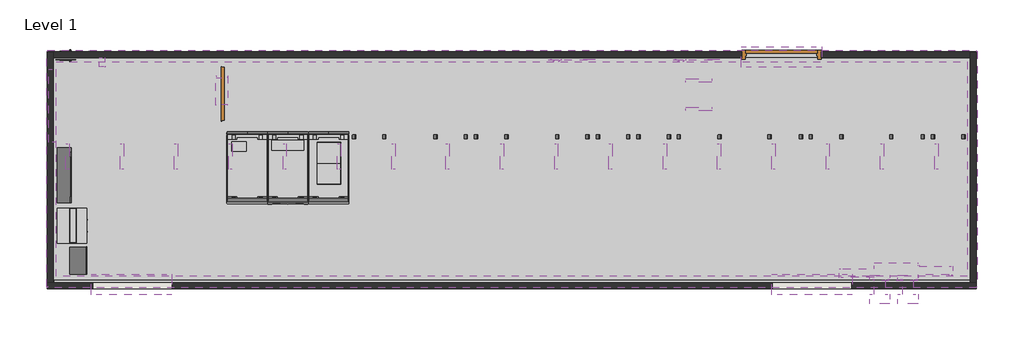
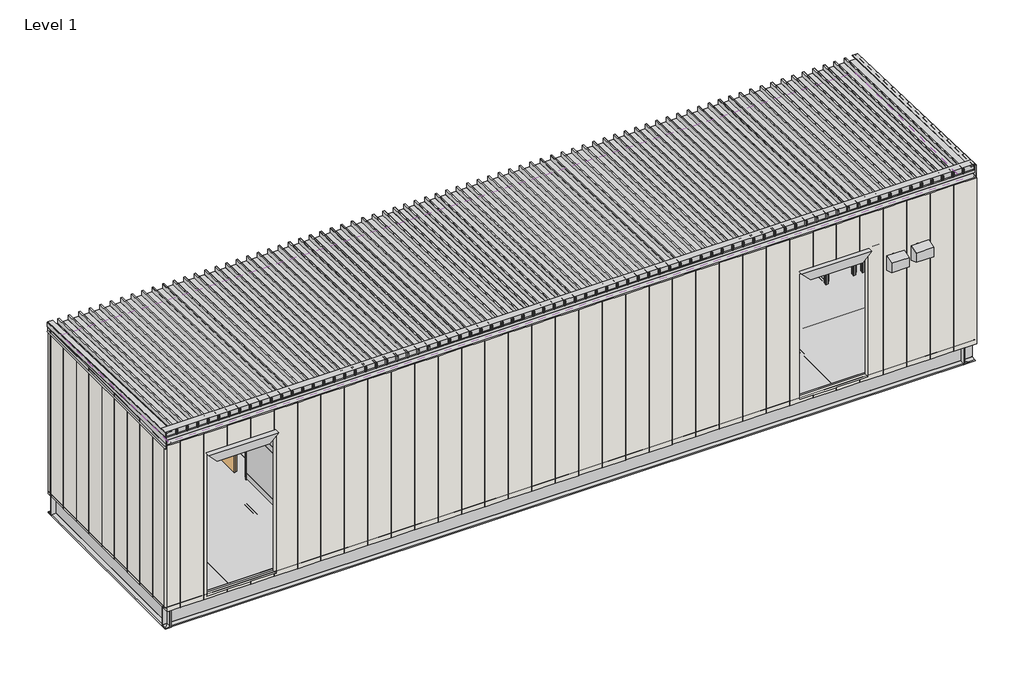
# One storey, incomplete: 41 proxies, 32 beams, 19 cable carrier fittings, 5 walls, 3 doors, 1 covering.
"""IFC4 building model written with IfcOpenShell, lengths in millimetres."""

from ifc_helpers import new_model, si_unit, frame, origin, place, context, project, spatial, polyline, outline, extrude, transform, mapped, element, save
from components import c381x94_16dd5fd5, c381x94_299a31d8, c381x96_93085bd0, c381x96_86510107, c381x96_7eebbe73, foot_stand_and_door_shade_foot_stand_and_door_shade_9e24d134, foot_stand_and_door_shade_foot_stand_and_door_shade_7551d113, foot_stand_and_door_shade_foot_stand_and_door_shade_05bf400a, i_channel_153x157_1de0439f, i_channel_2c100x6_7_d020ab85, i_channel_2c100x6_7_32814a7a, roof_100kw_roof_100kw_d4473de0, roof_100kw_roof_100kw_570b7f92, roof_100kw_roof_100kw_ccd04ebd, electrical_equipment_6561f704, electrical_equipment_92dd933f, electrical_equipment_2ad6ca1a, electrical_equipment_bae1f18c, electrical_equipment_f38b721f, mechanical_equipment_6443fe90, electrical_equipment_d7194751, electrical_equipment_63daee8f, electrical_equipment_b056a7a1, proxy_120v_outlet_120v_outlet_7d29b4f8, acf301em_404c859c, base_cover_base_cover_3083e37a, cp_100_control_panel_1df38591, climate_control_climate_control_6d8de276, i_line_power_distribution_panel_board_enclosure_cbae9e6e, rack_mount_pdu_ap8865_5da5d9cc, type_1_0d3d00d8, hanger_cabletray_hanger_cabletray_1b30f011, door_f1603644, door_5ed18baa, default_3b366235, walls_2_walls_2_6813603a, walls_3_walls_2_133da783, walls_4_walls_2_33bced6a, walls_7_walls_2_60d64259

model = new_model("IFC4")

# Units and contexts
model_context = context("Model", 3, world=origin())
ifc_project = project(units=[si_unit("LENGTHUNIT", "METRE", prefix="MILLI")], contexts=[model_context])

# Site, building, storey
site = spatial("IfcSite", under=ifc_project)
building = spatial("IfcBuilding", under=site)
storey = spatial("IfcBuildingStorey", under=building, Name="Level 1", Elevation=0.0)

# Beams
placement = place(None, origin())
c381x94_shape = c381x94_16dd5fd5(model_context)
element("IfcBeam", 1, ObjectType="M_C-Channel_305x105 : C381x94", at=placement, inside=storey, context=model_context, shape_type="MappedRepresentation", body=[
    mapped(c381x94_shape, transform((14806.9716396, 3824.2548204, 190.5), x_axis=(-1.0, 0.0, 0.0), y_axis=(0.0, -1.0, 0.0), z_axis=(0.0, 0.0, 1.0))),
])
c381x94_2_shape = c381x94_299a31d8(model_context)
element("IfcBeam", 2, ObjectType="M_C-Channel_305x105 : C381x94", at=placement, inside=storey, context=model_context, shape_type="MappedRepresentation", body=[
    mapped(c381x94_2_shape, transform((14806.9716396, 548.7448234, 190.5), x_axis=(-1.0, 0.0, 0.0), y_axis=(0.0, -1.0, 0.0), z_axis=(0.0, 0.0, 1.0))),
])
c381x96_shape = c381x96_93085bd0(model_context)
element("IfcBeam", 3, ObjectType="M_C-Channel_305x105 : C381x96", at=placement, inside=storey, context=model_context, shape_type="MappedRepresentation", body=[
    mapped(c381x96_shape, transform((6084.5986421, 3985.046086, 190.5), x_axis=(0.0, -1.0, 0.0), y_axis=(1.0, 0.0, 0.0), z_axis=(0.0, 0.0, 1.0))),
])
c381x96_2_shape = c381x96_86510107(model_context)
element("IfcBeam", 4, ObjectType="M_C-Channel_305x105 : C381x96", at=placement, inside=storey, context=model_context, shape_type="MappedRepresentation", body=[
    mapped(c381x96_2_shape, transform((19539.9172037, 3985.046086, 190.5), x_axis=(0.0, -1.0, 0.0), y_axis=(1.0, 0.0, 0.0), z_axis=(0.0, 0.0, 1.0))),
])
c381x96_3_shape = c381x96_7eebbe73(model_context)
element("IfcBeam", 5, ObjectType="M_C-Channel_305x105 : C381x96", at=placement, inside=storey, context=model_context, shape_type="MappedRepresentation", body=[
    mapped(c381x96_3_shape, transform((7732.608639, 3985.046086, 190.5), x_axis=(0.0, -1.0, 0.0), y_axis=(1.0, 0.0, 0.0), z_axis=(0.0, 0.0, 1.0))),
])
element("IfcBeam", 6, ObjectType="M_C-Channel_305x105 : C381x96", at=placement, inside=storey, context=model_context, shape_type="MappedRepresentation", body=[
    mapped(c381x96_3_shape, transform((12832.608639, 3985.046086, 190.5), x_axis=(0.0, -1.0, 0.0), y_axis=(1.0, 0.0, 0.0), z_axis=(0.0, 0.0, 1.0))),
])
element("IfcBeam", 7, ObjectType="M_C-Channel_305x105 : C381x96", at=placement, inside=storey, context=model_context, shape_type="MappedRepresentation", body=[
    mapped(c381x96_3_shape, transform((17932.608639, 3985.046086, 190.5), x_axis=(0.0, -1.0, 0.0), y_axis=(1.0, 0.0, 0.0), z_axis=(0.0, 0.0, 1.0))),
])
foot_stand_and_door_shade_foot_stand_and_door_shade_shape = foot_stand_and_door_shade_foot_stand_and_door_shade_9e24d134(model_context)
element("IfcBeam", 8, ObjectType="Foot Stand and Door shade : Foot Stand and Door shade", at=placement, inside=storey, context=model_context, shape_type="MappedRepresentation", body=[
    mapped(foot_stand_and_door_shade_foot_stand_and_door_shade_shape, transform((6594.6384743, 77.5172457, 0.0), x_axis=(1.0, 0.0, 0.0), y_axis=(0.0, 1.0, 0.0), z_axis=(0.0, 0.0, 1.0))),
])
foot_stand_and_door_shade_foot_stand_and_door_shade_2_shape = foot_stand_and_door_shade_foot_stand_and_door_shade_7551d113(model_context)
element("IfcBeam", 9, ObjectType="Foot Stand and Door shade : Foot Stand and Door shade", at=placement, inside=storey, context=model_context, shape_type="MappedRepresentation", body=[
    mapped(foot_stand_and_door_shade_foot_stand_and_door_shade_2_shape, transform((16642.4999477, 77.5172457, 0.0), x_axis=(1.0, 0.0, 0.0), y_axis=(0.0, 1.0, 0.0), z_axis=(0.0, 0.0, 1.0))),
])
foot_stand_and_door_shade_foot_stand_and_door_shade_3_shape = foot_stand_and_door_shade_foot_stand_and_door_shade_05bf400a(model_context)
element("IfcBeam", 10, ObjectType="Foot Stand and Door shade : Foot Stand and Door shade", at=placement, inside=storey, context=model_context, shape_type="MappedRepresentation", body=[
    mapped(foot_stand_and_door_shade_foot_stand_and_door_shade_3_shape, transform((16189.0339477, 4238.9110044, 0.0), x_axis=(1.0, 0.0, 0.0), y_axis=(0.0, 1.0, 0.0), z_axis=(0.0, 0.0, 1.0))),
])
i_channel_153x157_shape = i_channel_153x157_1de0439f(model_context)
element("IfcBeam", 11, ObjectType="I Channel : 153x157", at=placement, inside=storey, context=model_context, shape_type="MappedRepresentation", body=[
    mapped(i_channel_153x157_shape, transform((9239.0399071, 2184.3638219, 202.5), x_axis=(1.0, 0.0, 0.0), y_axis=(0.0, 1.0, 0.0), z_axis=(0.0, 0.0, 1.0))),
])
i_channel_2c100x6_7_shape = i_channel_2c100x6_7_d020ab85(model_context)
element("IfcBeam", 12, ObjectType="I Channel : 2C100X6.7", at=placement, inside=storey, context=model_context, shape_type="MappedRepresentation", body=[
    mapped(i_channel_2c100x6_7_shape, transform((8362.9196405, 3129.3607292, 332.5), x_axis=(0.0, -1.0, 0.0), y_axis=(1.0, 0.0, 0.0), z_axis=(0.0, 0.0, 1.0))),
])
element("IfcBeam", 13, ObjectType="I Channel : 2C100X6.7", at=placement, inside=storey, context=model_context, shape_type="MappedRepresentation", body=[
    mapped(i_channel_2c100x6_7_shape, transform((6549.7176405, 3129.3607292, 332.5), x_axis=(0.0, -1.0, 0.0), y_axis=(1.0, 0.0, 0.0), z_axis=(0.0, 0.0, 1.0))),
])
i_channel_2c100x6_7_2_shape = i_channel_2c100x6_7_32814a7a(model_context)
element("IfcBeam", 14, ObjectType="I Channel : 2C100X6.7", at=placement, inside=storey, context=model_context, shape_type="MappedRepresentation", body=[
    mapped(i_channel_2c100x6_7_2_shape, transform((19162.9196405, 3123.0107292, 332.5), x_axis=(0.0, -1.0, 0.0), y_axis=(1.0, 0.0, 0.0), z_axis=(0.0, 0.0, 1.0))),
])
element("IfcBeam", 15, ObjectType="I Channel : 2C100X6.7", at=placement, inside=storey, context=model_context, shape_type="MappedRepresentation", body=[
    mapped(i_channel_2c100x6_7_2_shape, transform((18562.9196405, 3123.0107292, 332.5), x_axis=(0.0, -1.0, 0.0), y_axis=(1.0, 0.0, 0.0), z_axis=(0.0, 0.0, 1.0))),
])
element("IfcBeam", 16, ObjectType="I Channel : 2C100X6.7", at=placement, inside=storey, context=model_context, shape_type="MappedRepresentation", body=[
    mapped(i_channel_2c100x6_7_2_shape, transform((17362.9196405, 3123.0107292, 332.5), x_axis=(0.0, -1.0, 0.0), y_axis=(1.0, 0.0, 0.0), z_axis=(0.0, 0.0, 1.0))),
])
element("IfcBeam", 17, ObjectType="I Channel : 2C100X6.7", at=placement, inside=storey, context=model_context, shape_type="MappedRepresentation", body=[
    mapped(i_channel_2c100x6_7_2_shape, transform((16762.9196405, 3123.0107292, 332.5), x_axis=(0.0, -1.0, 0.0), y_axis=(1.0, 0.0, 0.0), z_axis=(0.0, 0.0, 1.0))),
])
element("IfcBeam", 18, ObjectType="I Channel : 2C100X6.7", at=placement, inside=storey, context=model_context, shape_type="MappedRepresentation", body=[
    mapped(i_channel_2c100x6_7_2_shape, transform((16162.9196405, 3123.0107292, 332.5), x_axis=(0.0, -1.0, 0.0), y_axis=(1.0, 0.0, 0.0), z_axis=(0.0, 0.0, 1.0))),
])
element("IfcBeam", 19, ObjectType="I Channel : 2C100X6.7", at=placement, inside=storey, context=model_context, shape_type="MappedRepresentation", body=[
    mapped(i_channel_2c100x6_7_2_shape, transform((15562.9196405, 3123.0107292, 332.5), x_axis=(0.0, -1.0, 0.0), y_axis=(1.0, 0.0, 0.0), z_axis=(0.0, 0.0, 1.0))),
])
element("IfcBeam", 20, ObjectType="I Channel : 2C100X6.7", at=placement, inside=storey, context=model_context, shape_type="MappedRepresentation", body=[
    mapped(i_channel_2c100x6_7_2_shape, transform((14962.9196405, 3123.0107292, 332.5), x_axis=(0.0, -1.0, 0.0), y_axis=(1.0, 0.0, 0.0), z_axis=(0.0, 0.0, 1.0))),
])
element("IfcBeam", 21, ObjectType="I Channel : 2C100X6.7", at=placement, inside=storey, context=model_context, shape_type="MappedRepresentation", body=[
    mapped(i_channel_2c100x6_7_2_shape, transform((14362.9196405, 3123.0107292, 332.5), x_axis=(0.0, -1.0, 0.0), y_axis=(1.0, 0.0, 0.0), z_axis=(0.0, 0.0, 1.0))),
])
element("IfcBeam", 22, ObjectType="I Channel : 2C100X6.7", at=placement, inside=storey, context=model_context, shape_type="MappedRepresentation", body=[
    mapped(i_channel_2c100x6_7_2_shape, transform((13762.9196405, 3123.0107292, 332.5), x_axis=(0.0, -1.0, 0.0), y_axis=(1.0, 0.0, 0.0), z_axis=(0.0, 0.0, 1.0))),
])
element("IfcBeam", 23, ObjectType="I Channel : 2C100X6.7", at=placement, inside=storey, context=model_context, shape_type="MappedRepresentation", body=[
    mapped(i_channel_2c100x6_7_2_shape, transform((13162.9196405, 3123.0107292, 332.5), x_axis=(0.0, -1.0, 0.0), y_axis=(1.0, 0.0, 0.0), z_axis=(0.0, 0.0, 1.0))),
])
element("IfcBeam", 24, ObjectType="I Channel : 2C100X6.7", at=placement, inside=storey, context=model_context, shape_type="MappedRepresentation", body=[
    mapped(i_channel_2c100x6_7_2_shape, transform((12562.9196405, 3123.0107292, 332.5), x_axis=(0.0, -1.0, 0.0), y_axis=(1.0, 0.0, 0.0), z_axis=(0.0, 0.0, 1.0))),
])
element("IfcBeam", 25, ObjectType="I Channel : 2C100X6.7", at=placement, inside=storey, context=model_context, shape_type="MappedRepresentation", body=[
    mapped(i_channel_2c100x6_7_2_shape, transform((11962.9196405, 3123.0107292, 332.5), x_axis=(0.0, -1.0, 0.0), y_axis=(1.0, 0.0, 0.0), z_axis=(0.0, 0.0, 1.0))),
])
element("IfcBeam", 26, ObjectType="I Channel : 2C100X6.7", at=placement, inside=storey, context=model_context, shape_type="MappedRepresentation", body=[
    mapped(i_channel_2c100x6_7_2_shape, transform((11362.9196405, 3123.0107292, 332.5), x_axis=(0.0, -1.0, 0.0), y_axis=(1.0, 0.0, 0.0), z_axis=(0.0, 0.0, 1.0))),
])
element("IfcBeam", 27, ObjectType="I Channel : 2C100X6.7", at=placement, inside=storey, context=model_context, shape_type="MappedRepresentation", body=[
    mapped(i_channel_2c100x6_7_2_shape, transform((10762.9196405, 3123.0107292, 332.5), x_axis=(0.0, -1.0, 0.0), y_axis=(1.0, 0.0, 0.0), z_axis=(0.0, 0.0, 1.0))),
])
element("IfcBeam", 28, ObjectType="I Channel : 2C100X6.7", at=placement, inside=storey, context=model_context, shape_type="MappedRepresentation", body=[
    mapped(i_channel_2c100x6_7_2_shape, transform((10162.9196405, 3123.0107292, 332.5), x_axis=(0.0, -1.0, 0.0), y_axis=(1.0, 0.0, 0.0), z_axis=(0.0, 0.0, 1.0))),
])
element("IfcBeam", 29, ObjectType="I Channel : 2C100X6.7", at=placement, inside=storey, context=model_context, shape_type="MappedRepresentation", body=[
    mapped(i_channel_2c100x6_7_2_shape, transform((9562.9196405, 3123.0107292, 332.5), x_axis=(0.0, -1.0, 0.0), y_axis=(1.0, 0.0, 0.0), z_axis=(0.0, 0.0, 1.0))),
])
element("IfcBeam", 30, ObjectType="I Channel : 2C100X6.7", at=placement, inside=storey, context=model_context, shape_type="MappedRepresentation", body=[
    mapped(i_channel_2c100x6_7_2_shape, transform((8962.9196405, 3123.0107292, 332.5), x_axis=(0.0, -1.0, 0.0), y_axis=(1.0, 0.0, 0.0), z_axis=(0.0, 0.0, 1.0))),
])
element("IfcBeam", 31, ObjectType="I Channel : 2C100X6.7", at=placement, inside=storey, context=model_context, shape_type="MappedRepresentation", body=[
    mapped(i_channel_2c100x6_7_2_shape, transform((7149.7176405, 3123.0107292, 332.5), x_axis=(0.0, -1.0, 0.0), y_axis=(1.0, 0.0, 0.0), z_axis=(0.0, 0.0, 1.0))),
])
roof_100kw_roof_100kw_shape = roof_100kw_roof_100kw_d4473de0(model_context)
roof_100kw_roof_100kw_2_shape = roof_100kw_roof_100kw_570b7f92(model_context)
roof_100kw_roof_100kw_3_shape = roof_100kw_roof_100kw_ccd04ebd(model_context)
element("IfcBeam", 32, ObjectType="Roof_100kW : Roof_100kW", at=placement, inside=storey, context=model_context, shape_type="MappedRepresentation", body=[
    mapped(roof_100kw_roof_100kw_shape, transform((12866.921139, 462.8998207, 0.0), x_axis=(1.0, 0.0, 0.0), y_axis=(0.0, 1.0, 0.0), z_axis=(0.0, 0.0, 1.0))),
    mapped(roof_100kw_roof_100kw_2_shape, transform((12866.921139, 462.8998207, 0.0), x_axis=(1.0, 0.0, 0.0), y_axis=(0.0, 1.0, 0.0), z_axis=(0.0, 0.0, 1.0))),
    mapped(roof_100kw_roof_100kw_3_shape, transform((12866.921139, 462.8998207, 0.0), x_axis=(1.0, 0.0, 0.0), y_axis=(0.0, 1.0, 0.0), z_axis=(0.0, 0.0, 1.0))),
])

# Proxies
electrical_equipment_shape = electrical_equipment_6561f704(model_context)
electrical_equipment_2_shape = electrical_equipment_92dd933f(model_context)
electrical_equipment_3_shape = electrical_equipment_2ad6ca1a(model_context)
element("IfcBuildingElementProxy", 33, Name="TRF2 - 480V-208Vor 120V_ Step_down_transformer_BIM_Model : TRF2 - 480V-208Vor 120V_ Step_down_transformer_BIM_Model", ObjectType="TRF2 - 480V-208Vor 120V_ Step_down_transformer_BIM_Model : TRF2 - 480V-208Vor 120V_ Step_down_transformer_BIM_Model", at=placement, inside=storey, context=model_context, shape_type="MappedRepresentation", body=[
    mapped(electrical_equipment_shape, transform((6367.1751166, 1345.1918929, 384.1500006), x_axis=(0.0, 1.0, 0.0), y_axis=(-1.0, 0.0, 0.0), z_axis=(0.0, 0.0, 1.0))),
    mapped(electrical_equipment_2_shape, transform((6367.1751166, 1345.1918929, 384.1500006), x_axis=(0.0, 1.0, 0.0), y_axis=(-1.0, 0.0, 0.0), z_axis=(0.0, 0.0, 1.0))),
    mapped(electrical_equipment_3_shape, transform((6367.1751166, 1345.1918929, 384.1500006), x_axis=(0.0, 1.0, 0.0), y_axis=(-1.0, 0.0, 0.0), z_axis=(0.0, 0.0, 1.0))),
])
electrical_equipment_4_shape = electrical_equipment_bae1f18c(model_context)
element("IfcBuildingElementProxy", 34, Name="Distribution_Socket_Single_rotated : Distribution_Socket_Single_rotated", ObjectType="Distribution_Socket_Single_rotated : Distribution_Socket_Single_rotated", at=placement, inside=storey, context=model_context, shape_type="MappedRepresentation", body=[
    mapped(electrical_equipment_4_shape, transform((6277.2181267, 3854.0638219, 1291.35), x_axis=(1.0, 0.0, 0.0), y_axis=(0.0, 1.0, 0.0), z_axis=(0.0, 0.0, 1.0))),
])
element("IfcBuildingElementProxy", 35, Name="Distribution_Socket_Single_rotated : Distribution_Socket_Single_rotated", ObjectType="Distribution_Socket_Single_rotated : Distribution_Socket_Single_rotated", at=placement, inside=storey, context=model_context, shape_type="MappedRepresentation", body=[
    mapped(electrical_equipment_4_shape, transform((6277.2181267, 3854.0638219, 1041.7225973), x_axis=(1.0, 0.0, 0.0), y_axis=(0.0, 1.0, 0.0), z_axis=(0.0, 0.0, 1.0))),
])
element("IfcBuildingElementProxy", 36, Name="Distribution_Socket_Single_rotated : Distribution_Socket_Single_rotated", ObjectType="Distribution_Socket_Single_rotated : Distribution_Socket_Single_rotated", at=placement, inside=storey, context=model_context, shape_type="MappedRepresentation", body=[
    mapped(electrical_equipment_4_shape, transform((6277.2181267, 3854.0638219, 790.9774027), x_axis=(1.0, 0.0, 0.0), y_axis=(0.0, 1.0, 0.0), z_axis=(0.0, 0.0, 1.0))),
])
element("IfcBuildingElementProxy", 37, Name="Distribution_Socket_Single_rotated : Distribution_Socket_Single_rotated", ObjectType="Distribution_Socket_Single_rotated : Distribution_Socket_Single_rotated", at=placement, inside=storey, context=model_context, shape_type="MappedRepresentation", body=[
    mapped(electrical_equipment_4_shape, transform((6277.2181267, 3854.0638219, 541.35), x_axis=(1.0, 0.0, 0.0), y_axis=(0.0, 1.0, 0.0), z_axis=(0.0, 0.0, 1.0))),
])
electrical_equipment_5_shape = electrical_equipment_f38b721f(model_context)
element("IfcBuildingElementProxy", 38, Name="Distribution_Sockets : Distribution_Sockets", ObjectType="Distribution_Sockets : Distribution_Sockets", at=placement, inside=storey, context=model_context, shape_type="MappedRepresentation", body=[
    mapped(electrical_equipment_5_shape, transform((15588.9924539, 3854.0638219, 2947.9597767), x_axis=(1.0, 0.0, 0.0), y_axis=(0.0, 1.0, 0.0), z_axis=(0.0, 0.0, 1.0))),
])
element("IfcBuildingElementProxy", 39, Name="Distribution_Sockets : Distribution_Sockets", ObjectType="Distribution_Sockets : Distribution_Sockets", at=placement, inside=storey, context=model_context, shape_type="MappedRepresentation", body=[
    mapped(electrical_equipment_5_shape, transform((13748.9924539, 3854.0638219, 2947.9597767), x_axis=(1.0, 0.0, 0.0), y_axis=(0.0, 1.0, 0.0), z_axis=(0.0, 0.0, 1.0))),
])
mechanical_equipment_shape = mechanical_equipment_6443fe90(model_context)
element("IfcBuildingElementProxy", 40, Name="Energy_Recovery_Ventilator_ERVH100SE : ERVH100SE", ObjectType="Energy_Recovery_Ventilator_ERVH100SE : ERVH100SE", at=placement, inside=storey, context=model_context, shape_type="MappedRepresentation", body=[
    mapped(mechanical_equipment_shape, transform((18535.0040748, 800.9566736, 2303.0984805), x_axis=(1.0, 0.0, 0.0), y_axis=(0.0, 1.0, 0.0), z_axis=(0.0, 0.0, 1.0))),
])
electrical_equipment_6_shape = electrical_equipment_d7194751(model_context)
element("IfcBuildingElementProxy", 41, Name="Symmetra_PX_Battery_96_100_160kW_Schneider_Electric_BIM_Model : SYCFXR9-9 - Symmetra PX Battery frame with 9 Battery Modules", ObjectType="Symmetra_PX_Battery_96_100_160kW_Schneider_Electric_BIM_Model : SYCFXR9-9 - Symmetra PX Battery frame with 9 Battery Modules", at=placement, inside=storey, context=model_context, shape_type="MappedRepresentation", body=[
    mapped(electrical_equipment_6_shape, transform((8956.9353251, 2197.1545079, 387.0), x_axis=(1.0, 0.0, 0.0), y_axis=(0.0, 1.0, 0.0), z_axis=(0.0, 0.0, 1.0))),
])
electrical_equipment_7_shape = electrical_equipment_63daee8f(model_context)
element("IfcBuildingElementProxy", 42, Name="Modular_PDU_100kW_600_480_208V_MBP_w_XFMR_Schneider_Electric_BIM_Model : PDPM100G6F-M 100kVA Modular Power Distribution Unit, Isolation Transformer, 480-208V, 72 Pole, MBP, 1 Subfeed", ObjectType="Modular_PDU_100kW_600_480_208V_MBP_w_XFMR_Schneider_Electric_BIM_Model : PDPM100G6F-M 100kVA Modular Power Distribution Unit, Isolation Transformer, 480-208V, 72 Pole, MBP, 1 Subfeed", at=placement, inside=storey, context=model_context, shape_type="MappedRepresentation", body=[
    mapped(electrical_equipment_7_shape, transform((10156.9353251, 2197.1545079, 387.0), x_axis=(1.0, 0.0, 0.0), y_axis=(0.0, 1.0, 0.0), z_axis=(0.0, 0.0, 1.0))),
])
electrical_equipment_8_shape = electrical_equipment_b056a7a1(model_context)
element("IfcBuildingElementProxy", 43, Name="UPS_Symmetra_PX_100_Schneider_Electric_100kVA_BIM_Model : SY100K100F", ObjectType="UPS_Symmetra_PX_100_Schneider_Electric_100kVA_BIM_Model : SY100K100F", at=placement, inside=storey, context=model_context, shape_type="MappedRepresentation", body=[
    mapped(electrical_equipment_8_shape, transform((9556.9353251, 2197.1545079, 387.0), x_axis=(1.0, 0.0, 0.0), y_axis=(0.0, 1.0, 0.0), z_axis=(0.0, 0.0, 1.0))),
])
proxy_120v_outlet_120v_outlet_shape = proxy_120v_outlet_120v_outlet_7d29b4f8(model_context)
element("IfcBuildingElementProxy", 44, Name="120V Outlet : 120V Outlet", ObjectType="120V Outlet : 120V Outlet", at=placement, inside=storey, context=model_context, shape_type="MappedRepresentation", body=[
    mapped(proxy_120v_outlet_120v_outlet_shape, transform((6813.3666665, 3868.5638219, 4.9244391), x_axis=(-1.0, 0.0, 0.0), y_axis=(0.0, -1.0, 0.0), z_axis=(0.0, 0.0, 1.0))),
])
acf301em_shape = acf301em_404c859c(model_context)
element("IfcBuildingElementProxy", 45, Name="ACF301EM - Wiring_Closet_Ventillation_Unit : ACF301EM", ObjectType="ACF301EM - Wiring_Closet_Ventillation_Unit : ACF301EM", at=placement, inside=storey, context=model_context, shape_type="MappedRepresentation", body=[
    mapped(acf301em_shape, transform((8373.7040711, 3329.8998207, 2757.0), x_axis=(-1.1040057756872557e-12, 1.0, 0.0), y_axis=(-1.0, -1.1040057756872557e-12, 0.0), z_axis=(0.0, 0.0, 1.0))),
])
base_cover_base_cover_shape = base_cover_base_cover_3083e37a(model_context)
element("IfcBuildingElementProxy", 46, Name="Base_cover : Base_cover", ObjectType="Base_cover : Base_cover", at=placement, inside=storey, context=model_context, shape_type="MappedRepresentation", body=[
    mapped(base_cover_base_cover_shape, transform((12862.9896405, 2184.6358219, 0.0), x_axis=(1.0, 0.0, 0.0), y_axis=(0.0, 1.0, 0.0), z_axis=(0.0, 0.0, 1.0))),
])
cp_100_control_panel_shape = cp_100_control_panel_1df38591(model_context)
element("IfcBuildingElementProxy", 47, Name="CP-100_Control_Panel_Wallmount_with_3inch_Strut_BIM_Model : CP-100 Control panel", ObjectType="CP-100_Control_Panel_Wallmount_with_3inch_Strut_BIM_Model : CP-100 Control panel", at=placement, inside=storey, context=model_context, shape_type="MappedRepresentation", body=[
    mapped(cp_100_control_panel_shape, transform((6074.3446306, 952.8183425, 17.2), x_axis=(0.0, -1.0, 0.0), y_axis=(1.0, 0.0, 0.0), z_axis=(0.0, 0.0, 1.0))),
])
climate_control_climate_control_shape = climate_control_climate_control_6d8de276(model_context)
element("IfcBuildingElementProxy", 48, Name="Climate Control : Climate Control", ObjectType="Climate Control : Climate Control", at=placement, inside=storey, context=model_context, shape_type="MappedRepresentation", body=[
    mapped(climate_control_climate_control_shape, transform((18860.2135315, 411.5755572, 2287.4972995), x_axis=(-1.0000000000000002, 0.0, 0.0), y_axis=(0.0, -1.0000000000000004, 0.0), z_axis=(0.0, 0.0, 1.0000000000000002))),
])
element("IfcBuildingElementProxy", 49, Name="Climate Control : Climate Control", ObjectType="Climate Control : Climate Control", at=placement, inside=storey, context=model_context, shape_type="MappedRepresentation", body=[
    mapped(climate_control_climate_control_shape, transform((18445.5631712, 411.5755572, 2249.2242913), x_axis=(-1.0000000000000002, 0.0, 0.0), y_axis=(0.0, -1.0000000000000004, 0.0), z_axis=(0.0, 0.0, 1.0000000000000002))),
])
i_line_power_distribution_panel_board_enclosure_shape = i_line_power_distribution_panel_board_enclosure_cbae9e6e(model_context)
element("IfcBuildingElementProxy", 50, Name="I-Line_Power_Distribution_Panel_Board_Enclosure_MDP-100_BIM_Model : I-Line Power Distribution Panel Board Enclosure", ObjectType="I-Line_Power_Distribution_Panel_Board_Enclosure_MDP-100_BIM_Model : I-Line Power Distribution Panel Board Enclosure", at=placement, inside=storey, context=model_context, shape_type="MappedRepresentation", body=[
    mapped(i_line_power_distribution_panel_board_enclosure_shape, transform((6253.3536405, 2090.8035313, 387.0), x_axis=(0.0, 1.0000000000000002, 0.0), y_axis=(-1.0000000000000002, 0.0, 0.0), z_axis=(0.0, 0.0, 1.0))),
])
rack_mount_pdu_ap8865_shape = rack_mount_pdu_ap8865_5da5d9cc(model_context)
element("IfcBuildingElementProxy", 51, Name="Rack mount PDU AP8865 : AP8865 - Rack PDU 2G, Metered", ObjectType="Rack mount PDU AP8865 : AP8865 - Rack PDU 2G, Metered", at=placement, inside=storey, context=model_context, shape_type="MappedRepresentation", body=[
    mapped(rack_mount_pdu_ap8865_shape, transform((14134.9353251, 2657.4927535, 500.0), x_axis=(1.0, 0.0, 0.0), y_axis=(0.0, 1.0, 0.0), z_axis=(0.0, 0.0, 1.0))),
])
element("IfcBuildingElementProxy", 52, Name="Rack mount PDU AP8865 : AP8865 - Rack PDU 2G, Metered", ObjectType="Rack mount PDU AP8865 : AP8865 - Rack PDU 2G, Metered", at=placement, inside=storey, context=model_context, shape_type="MappedRepresentation", body=[
    mapped(rack_mount_pdu_ap8865_shape, transform((14582.9196405, 2657.4927535, 500.0), x_axis=(1.0, 0.0, 0.0), y_axis=(0.0, 1.0, 0.0), z_axis=(0.0, 0.0, 1.0))),
])
element("IfcBuildingElementProxy", 53, Name="Rack mount PDU AP8865 : AP8865 - Rack PDU 2G, Metered", ObjectType="Rack mount PDU AP8865 : AP8865 - Rack PDU 2G, Metered", at=placement, inside=storey, context=model_context, shape_type="MappedRepresentation", body=[
    mapped(rack_mount_pdu_ap8865_shape, transform((13532.9353251, 2657.4927535, 500.0), x_axis=(1.0, 0.0, 0.0), y_axis=(0.0, 1.0, 0.0), z_axis=(0.0, 0.0, 1.0))),
])
element("IfcBuildingElementProxy", 54, Name="Rack mount PDU AP8865 : AP8865 - Rack PDU 2G, Metered", ObjectType="Rack mount PDU AP8865 : AP8865 - Rack PDU 2G, Metered", at=placement, inside=storey, context=model_context, shape_type="MappedRepresentation", body=[
    mapped(rack_mount_pdu_ap8865_shape, transform((13980.9353251, 2657.4927535, 500.0), x_axis=(1.0, 0.0, 0.0), y_axis=(0.0, 1.0, 0.0), z_axis=(0.0, 0.0, 1.0))),
])
element("IfcBuildingElementProxy", 55, Name="Rack mount PDU AP8865 : AP8865 - Rack PDU 2G, Metered", ObjectType="Rack mount PDU AP8865 : AP8865 - Rack PDU 2G, Metered", at=placement, inside=storey, context=model_context, shape_type="MappedRepresentation", body=[
    mapped(rack_mount_pdu_ap8865_shape, transform((12334.9353251, 2657.4927535, 500.0), x_axis=(1.0, 0.0, 0.0), y_axis=(0.0, 1.0, 0.0), z_axis=(0.0, 0.0, 1.0))),
])
element("IfcBuildingElementProxy", 56, Name="Rack mount PDU AP8865 : AP8865 - Rack PDU 2G, Metered", ObjectType="Rack mount PDU AP8865 : AP8865 - Rack PDU 2G, Metered", at=placement, inside=storey, context=model_context, shape_type="MappedRepresentation", body=[
    mapped(rack_mount_pdu_ap8865_shape, transform((12782.9196405, 2657.4927535, 500.0), x_axis=(1.0, 0.0, 0.0), y_axis=(0.0, 1.0, 0.0), z_axis=(0.0, 0.0, 1.0))),
])
element("IfcBuildingElementProxy", 57, Name="Rack mount PDU AP8865 : AP8865 - Rack PDU 2G, Metered", ObjectType="Rack mount PDU AP8865 : AP8865 - Rack PDU 2G, Metered", at=placement, inside=storey, context=model_context, shape_type="MappedRepresentation", body=[
    mapped(rack_mount_pdu_ap8865_shape, transform((11734.9353251, 2657.4927535, 500.0), x_axis=(1.0, 0.0, 0.0), y_axis=(0.0, 1.0, 0.0), z_axis=(0.0, 0.0, 1.0))),
])
element("IfcBuildingElementProxy", 58, Name="Rack mount PDU AP8865 : AP8865 - Rack PDU 2G, Metered", ObjectType="Rack mount PDU AP8865 : AP8865 - Rack PDU 2G, Metered", at=placement, inside=storey, context=model_context, shape_type="MappedRepresentation", body=[
    mapped(rack_mount_pdu_ap8865_shape, transform((12182.9196405, 2657.4927535, 500.0), x_axis=(1.0, 0.0, 0.0), y_axis=(0.0, 1.0, 0.0), z_axis=(0.0, 0.0, 1.0))),
])
element("IfcBuildingElementProxy", 59, Name="Rack mount PDU AP8865 : AP8865 - Rack PDU 2G, Metered", ObjectType="Rack mount PDU AP8865 : AP8865 - Rack PDU 2G, Metered", at=placement, inside=storey, context=model_context, shape_type="MappedRepresentation", body=[
    mapped(rack_mount_pdu_ap8865_shape, transform((10534.9353251, 2657.4927535, 500.0), x_axis=(1.0, 0.0, 0.0), y_axis=(0.0, 1.0, 0.0), z_axis=(0.0, 0.0, 1.0))),
])
element("IfcBuildingElementProxy", 60, Name="Rack mount PDU AP8865 : AP8865 - Rack PDU 2G, Metered", ObjectType="Rack mount PDU AP8865 : AP8865 - Rack PDU 2G, Metered", at=placement, inside=storey, context=model_context, shape_type="MappedRepresentation", body=[
    mapped(rack_mount_pdu_ap8865_shape, transform((10978.4353251, 2657.4927535, 500.0), x_axis=(1.0, 0.0, 0.0), y_axis=(0.0, 1.0, 0.0), z_axis=(0.0, 0.0, 1.0))),
])
element("IfcBuildingElementProxy", 61, Name="Rack mount PDU AP8865 : AP8865 - Rack PDU 2G, Metered", ObjectType="Rack mount PDU AP8865 : AP8865 - Rack PDU 2G, Metered", at=placement, inside=storey, context=model_context, shape_type="MappedRepresentation", body=[
    mapped(rack_mount_pdu_ap8865_shape, transform((14734.9353251, 2657.4927535, 500.0), x_axis=(1.0, 0.0, 0.0), y_axis=(0.0, 1.0, 0.0), z_axis=(0.0, 0.0, 1.0))),
])
element("IfcBuildingElementProxy", 62, Name="Rack mount PDU AP8865 : AP8865 - Rack PDU 2G, Metered", ObjectType="Rack mount PDU AP8865 : AP8865 - Rack PDU 2G, Metered", at=placement, inside=storey, context=model_context, shape_type="MappedRepresentation", body=[
    mapped(rack_mount_pdu_ap8865_shape, transform((15182.9196405, 2657.4927535, 500.0), x_axis=(1.0, 0.0, 0.0), y_axis=(0.0, 1.0, 0.0), z_axis=(0.0, 0.0, 1.0))),
])
element("IfcBuildingElementProxy", 63, Name="Rack mount PDU AP8865 : AP8865 - Rack PDU 2G, Metered", ObjectType="Rack mount PDU AP8865 : AP8865 - Rack PDU 2G, Metered", at=placement, inside=storey, context=model_context, shape_type="MappedRepresentation", body=[
    mapped(rack_mount_pdu_ap8865_shape, transform((15327.9196405, 2657.4927535, 500.0), x_axis=(1.0, 0.0, 0.0), y_axis=(0.0, 1.0, 0.0), z_axis=(0.0, 0.0, 1.0))),
])
element("IfcBuildingElementProxy", 64, Name="Rack mount PDU AP8865 : AP8865 - Rack PDU 2G, Metered", ObjectType="Rack mount PDU AP8865 : AP8865 - Rack PDU 2G, Metered", at=placement, inside=storey, context=model_context, shape_type="MappedRepresentation", body=[
    mapped(rack_mount_pdu_ap8865_shape, transform((15930.9353251, 2657.4927535, 500.0), x_axis=(1.0, 0.0, 0.0), y_axis=(0.0, 1.0, 0.0), z_axis=(0.0, 0.0, 1.0))),
])
element("IfcBuildingElementProxy", 65, Name="Rack mount PDU AP8865 : AP8865 - Rack PDU 2G, Metered", ObjectType="Rack mount PDU AP8865 : AP8865 - Rack PDU 2G, Metered", at=placement, inside=storey, context=model_context, shape_type="MappedRepresentation", body=[
    mapped(rack_mount_pdu_ap8865_shape, transform((16665.4872334, 2657.4927535, 500.0), x_axis=(1.0, 0.0, 0.0), y_axis=(0.0, 1.0, 0.0), z_axis=(0.0, 0.0, 1.0))),
])
element("IfcBuildingElementProxy", 66, Name="Rack mount PDU AP8865 : AP8865 - Rack PDU 2G, Metered", ObjectType="Rack mount PDU AP8865 : AP8865 - Rack PDU 2G, Metered", at=placement, inside=storey, context=model_context, shape_type="MappedRepresentation", body=[
    mapped(rack_mount_pdu_ap8865_shape, transform((17130.4872334, 2657.4927535, 500.0), x_axis=(1.0, 0.0, 0.0), y_axis=(0.0, 1.0, 0.0), z_axis=(0.0, 0.0, 1.0))),
])
element("IfcBuildingElementProxy", 67, Name="Rack mount PDU AP8865 : AP8865 - Rack PDU 2G, Metered", ObjectType="Rack mount PDU AP8865 : AP8865 - Rack PDU 2G, Metered", at=placement, inside=storey, context=model_context, shape_type="MappedRepresentation", body=[
    mapped(rack_mount_pdu_ap8865_shape, transform((17275.4872334, 2657.4927535, 500.0), x_axis=(1.0, 0.0, 0.0), y_axis=(0.0, 1.0, 0.0), z_axis=(0.0, 0.0, 1.0))),
])
element("IfcBuildingElementProxy", 68, Name="Rack mount PDU AP8865 : AP8865 - Rack PDU 2G, Metered", ObjectType="Rack mount PDU AP8865 : AP8865 - Rack PDU 2G, Metered", at=placement, inside=storey, context=model_context, shape_type="MappedRepresentation", body=[
    mapped(rack_mount_pdu_ap8865_shape, transform((17730.4872334, 2657.4927535, 500.0), x_axis=(1.0, 0.0, 0.0), y_axis=(0.0, 1.0, 0.0), z_axis=(0.0, 0.0, 1.0))),
])
element("IfcBuildingElementProxy", 69, Name="Rack mount PDU AP8865 : AP8865 - Rack PDU 2G, Metered", ObjectType="Rack mount PDU AP8865 : AP8865 - Rack PDU 2G, Metered", at=placement, inside=storey, context=model_context, shape_type="MappedRepresentation", body=[
    mapped(rack_mount_pdu_ap8865_shape, transform((18465.4872334, 2657.4927535, 500.0), x_axis=(1.0, 0.0, 0.0), y_axis=(0.0, 1.0, 0.0), z_axis=(0.0, 0.0, 1.0))),
])
element("IfcBuildingElementProxy", 70, Name="Rack mount PDU AP8865 : AP8865 - Rack PDU 2G, Metered", ObjectType="Rack mount PDU AP8865 : AP8865 - Rack PDU 2G, Metered", at=placement, inside=storey, context=model_context, shape_type="MappedRepresentation", body=[
    mapped(rack_mount_pdu_ap8865_shape, transform((18930.4872334, 2657.4927535, 500.0), x_axis=(1.0, 0.0, 0.0), y_axis=(0.0, 1.0, 0.0), z_axis=(0.0, 0.0, 1.0))),
])
element("IfcBuildingElementProxy", 71, Name="Rack mount PDU AP8865 : AP8865 - Rack PDU 2G, Metered", ObjectType="Rack mount PDU AP8865 : AP8865 - Rack PDU 2G, Metered", at=placement, inside=storey, context=model_context, shape_type="MappedRepresentation", body=[
    mapped(rack_mount_pdu_ap8865_shape, transform((19082.4872334, 2657.4927535, 500.0), x_axis=(1.0, 0.0, 0.0), y_axis=(0.0, 1.0, 0.0), z_axis=(0.0, 0.0, 1.0))),
])
element("IfcBuildingElementProxy", 72, Name="Rack mount PDU AP8865 : AP8865 - Rack PDU 2G, Metered", ObjectType="Rack mount PDU AP8865 : AP8865 - Rack PDU 2G, Metered", at=placement, inside=storey, context=model_context, shape_type="MappedRepresentation", body=[
    mapped(rack_mount_pdu_ap8865_shape, transform((19530.4872334, 2657.4927535, 500.0), x_axis=(1.0, 0.0, 0.0), y_axis=(0.0, 1.0, 0.0), z_axis=(0.0, 0.0, 1.0))),
])
type_1_shape = type_1_0d3d00d8(model_context)
element("IfcBuildingElementProxy", 73, Name="PDB-200 - 208V_OR_120V_Distribution_Panel_Wallmount_BIM_Model : Type 1", ObjectType="PDB-200 - 208V_OR_120V_Distribution_Panel_Wallmount_BIM_Model : Type 1", at=placement, inside=storey, context=model_context, shape_type="MappedRepresentation", body=[
    mapped(type_1_shape, transform((6050.4534158, 1347.7877928, 167.6783906), x_axis=(0.0, -1.0, 0.0), y_axis=(1.0, 0.0, 0.0), z_axis=(0.0, 0.0, 1.0))),
])

# Cable carrier fittings
hanger_cabletray_hanger_cabletray_shape = hanger_cabletray_hanger_cabletray_1b30f011(model_context)
element("IfcCableCarrierFitting", 74, ObjectType="Hanger_CableTray : Hanger_CableTray", at=placement, inside=storey, context=model_context, shape_type="MappedRepresentation", body=[
    mapped(hanger_cabletray_hanger_cabletray_shape, transform((6303.563234, 2531.7618688, 2854.0), x_axis=(0.0, 1.0, 0.0), y_axis=(-1.0, 0.0, 0.0), z_axis=(0.0, 0.0, 1.0))),
])
element("IfcCableCarrierFitting", 75, ObjectType="Hanger_CableTray : Hanger_CableTray", at=placement, inside=storey, context=model_context, shape_type="MappedRepresentation", body=[
    mapped(hanger_cabletray_hanger_cabletray_shape, transform((7105.250734, 2531.7618688, 2854.0), x_axis=(0.0, 1.0, 0.0), y_axis=(-1.0, 0.0, 0.0), z_axis=(0.0, 0.0, 1.0))),
])
element("IfcCableCarrierFitting", 76, ObjectType="Hanger_CableTray : Hanger_CableTray", at=placement, inside=storey, context=model_context, shape_type="MappedRepresentation", body=[
    mapped(hanger_cabletray_hanger_cabletray_shape, transform((15455.9353251, 3485.7742909, 2854.0), x_axis=(-1.0, 0.0, 0.0), y_axis=(0.0, -1.0, 0.0), z_axis=(0.0, 0.0, 1.0))),
])
element("IfcCableCarrierFitting", 77, ObjectType="Hanger_CableTray : Hanger_CableTray", at=placement, inside=storey, context=model_context, shape_type="MappedRepresentation", body=[
    mapped(hanger_cabletray_hanger_cabletray_shape, transform((15455.9353251, 3068.8089945, 2854.0), x_axis=(-1.0, 0.0, 0.0), y_axis=(0.0, -1.0, 0.0), z_axis=(0.0, 0.0, 1.0))),
])
element("IfcCableCarrierFitting", 78, ObjectType="Hanger_CableTray : Hanger_CableTray", at=placement, inside=storey, context=model_context, shape_type="MappedRepresentation", body=[
    mapped(hanger_cabletray_hanger_cabletray_shape, transform((7906.938234, 2531.7618688, 2854.0), x_axis=(0.0, 1.0, 0.0), y_axis=(-1.0, 0.0, 0.0), z_axis=(0.0, 0.0, 1.0))),
])
element("IfcCableCarrierFitting", 79, ObjectType="Hanger_CableTray : Hanger_CableTray", at=placement, inside=storey, context=model_context, shape_type="MappedRepresentation", body=[
    mapped(hanger_cabletray_hanger_cabletray_shape, transform((8708.625734, 2531.7618688, 2854.0), x_axis=(0.0, 1.0, 0.0), y_axis=(-1.0, 0.0, 0.0), z_axis=(0.0, 0.0, 1.0))),
])
element("IfcCableCarrierFitting", 80, ObjectType="Hanger_CableTray : Hanger_CableTray", at=placement, inside=storey, context=model_context, shape_type="MappedRepresentation", body=[
    mapped(hanger_cabletray_hanger_cabletray_shape, transform((9510.313234, 2531.7618688, 2854.0), x_axis=(0.0, 1.0, 0.0), y_axis=(-1.0, 0.0, 0.0), z_axis=(0.0, 0.0, 1.0))),
])
element("IfcCableCarrierFitting", 81, ObjectType="Hanger_CableTray : Hanger_CableTray", at=placement, inside=storey, context=model_context, shape_type="MappedRepresentation", body=[
    mapped(hanger_cabletray_hanger_cabletray_shape, transform((10312.000734, 2531.7618688, 2854.0), x_axis=(0.0, 1.0, 0.0), y_axis=(-1.0, 0.0, 0.0), z_axis=(0.0, 0.0, 1.0))),
])
element("IfcCableCarrierFitting", 82, ObjectType="Hanger_CableTray : Hanger_CableTray", at=placement, inside=storey, context=model_context, shape_type="MappedRepresentation", body=[
    mapped(hanger_cabletray_hanger_cabletray_shape, transform((11113.688234, 2531.7618688, 2854.0), x_axis=(0.0, 1.0, 0.0), y_axis=(-1.0, 0.0, 0.0), z_axis=(0.0, 0.0, 1.0))),
])
element("IfcCableCarrierFitting", 83, ObjectType="Hanger_CableTray : Hanger_CableTray", at=placement, inside=storey, context=model_context, shape_type="MappedRepresentation", body=[
    mapped(hanger_cabletray_hanger_cabletray_shape, transform((11915.375734, 2531.7618688, 2854.0), x_axis=(0.0, 1.0, 0.0), y_axis=(-1.0, 0.0, 0.0), z_axis=(0.0, 0.0, 1.0))),
])
element("IfcCableCarrierFitting", 84, ObjectType="Hanger_CableTray : Hanger_CableTray", at=placement, inside=storey, context=model_context, shape_type="MappedRepresentation", body=[
    mapped(hanger_cabletray_hanger_cabletray_shape, transform((12717.063234, 2531.7618688, 2854.0), x_axis=(0.0, 1.0, 0.0), y_axis=(-1.0, 0.0, 0.0), z_axis=(0.0, 0.0, 1.0))),
])
element("IfcCableCarrierFitting", 85, ObjectType="Hanger_CableTray : Hanger_CableTray", at=placement, inside=storey, context=model_context, shape_type="MappedRepresentation", body=[
    mapped(hanger_cabletray_hanger_cabletray_shape, transform((13518.750734, 2531.7618688, 2854.0), x_axis=(0.0, 1.0, 0.0), y_axis=(-1.0, 0.0, 0.0), z_axis=(0.0, 0.0, 1.0))),
])
element("IfcCableCarrierFitting", 86, ObjectType="Hanger_CableTray : Hanger_CableTray", at=placement, inside=storey, context=model_context, shape_type="MappedRepresentation", body=[
    mapped(hanger_cabletray_hanger_cabletray_shape, transform((14320.438234, 2531.7618688, 2854.0), x_axis=(0.0, 1.0, 0.0), y_axis=(-1.0, 0.0, 0.0), z_axis=(0.0, 0.0, 1.0))),
])
element("IfcCableCarrierFitting", 87, ObjectType="Hanger_CableTray : Hanger_CableTray", at=placement, inside=storey, context=model_context, shape_type="MappedRepresentation", body=[
    mapped(hanger_cabletray_hanger_cabletray_shape, transform((15122.125734, 2531.7618688, 2854.0), x_axis=(0.0, 1.0, 0.0), y_axis=(-1.0, 0.0, 0.0), z_axis=(0.0, 0.0, 1.0))),
])
element("IfcCableCarrierFitting", 88, ObjectType="Hanger_CableTray : Hanger_CableTray", at=placement, inside=storey, context=model_context, shape_type="MappedRepresentation", body=[
    mapped(hanger_cabletray_hanger_cabletray_shape, transform((15923.813234, 2531.7618688, 2854.0), x_axis=(0.0, 1.0, 0.0), y_axis=(-1.0, 0.0, 0.0), z_axis=(0.0, 0.0, 1.0))),
])
element("IfcCableCarrierFitting", 89, ObjectType="Hanger_CableTray : Hanger_CableTray", at=placement, inside=storey, context=model_context, shape_type="MappedRepresentation", body=[
    mapped(hanger_cabletray_hanger_cabletray_shape, transform((16725.500734, 2531.7618688, 2854.0), x_axis=(0.0, 1.0, 0.0), y_axis=(-1.0, 0.0, 0.0), z_axis=(0.0, 0.0, 1.0))),
])
element("IfcCableCarrierFitting", 90, ObjectType="Hanger_CableTray : Hanger_CableTray", at=placement, inside=storey, context=model_context, shape_type="MappedRepresentation", body=[
    mapped(hanger_cabletray_hanger_cabletray_shape, transform((17527.188234, 2531.7618688, 2854.0), x_axis=(0.0, 1.0, 0.0), y_axis=(-1.0, 0.0, 0.0), z_axis=(0.0, 0.0, 1.0))),
])
element("IfcCableCarrierFitting", 91, ObjectType="Hanger_CableTray : Hanger_CableTray", at=placement, inside=storey, context=model_context, shape_type="MappedRepresentation", body=[
    mapped(hanger_cabletray_hanger_cabletray_shape, transform((18328.875734, 2531.7618688, 2854.0), x_axis=(0.0, 1.0, 0.0), y_axis=(-1.0, 0.0, 0.0), z_axis=(0.0, 0.0, 1.0))),
])
element("IfcCableCarrierFitting", 92, ObjectType="Hanger_CableTray : Hanger_CableTray", at=placement, inside=storey, context=model_context, shape_type="MappedRepresentation", body=[
    mapped(hanger_cabletray_hanger_cabletray_shape, transform((19130.563234, 2531.7618688, 2854.0), x_axis=(0.0, 1.0, 0.0), y_axis=(-1.0, 0.0, 0.0), z_axis=(0.0, 0.0, 1.0))),
])

# Covering
element("IfcCovering", 93, ObjectType="GWB on Mtl Stud", at=placement, inside=storey, context=model_context, shape_type="SweptSolid", body=[
    extrude(outline(polyline([(19584.8800651, 3761.9110044), (19584.8800651, 597.8886371), (6139.793216, 597.8886371), (6139.793216, 3761.9110044), (19584.8800651, 3761.9110044)])), frame((0.0, 0.0, 3219.0), z_axis=(0.0, 0.0, 1.0), x_axis=(1.0, 0.0, 0.0)), (0.0, 0.0, 1.0), 107.95),
])

# Doors
door_shape = door_f1603644(model_context)
element("IfcDoor", 94, ObjectType="DoorPanel_Steel_Republic_F : DoorPanel_Steel_Republic_F", at=placement, inside=storey, context=model_context, shape_type="MappedRepresentation", body=[
    mapped(door_shape, transform((16844.4536405, 3911.3388219, 375.0), x_axis=(1.0, 0.0, 0.0), y_axis=(0.0, 1.0, 0.0), z_axis=(0.0, 0.0, 1.0))),
])
door_2_shape = door_5ed18baa(model_context)
element("IfcDoor", 95, ObjectType="Door_Steel_Republic_Single-DoubleRabbet-Equal : ByType", at=placement, inside=storey, context=model_context, shape_type="MappedRepresentation", body=[
    mapped(door_2_shape, transform((15262.3629437, 4731.2048658, 375.0), x_axis=(1.0, 0.0, 0.0), y_axis=(0.0, 1.0, 0.0), z_axis=(0.0, 0.0, 1.0))),
])
default_shape = default_3b366235(model_context)
element("IfcDoor", 96, ObjectType="Panel_FIN_40D_Rebated_Glazed_05 : default", at=placement, inside=storey, context=model_context, shape_type="MappedRepresentation", body=[
    mapped(default_shape, transform((8573.9937562, 3291.2545079, 418.7771078), x_axis=(0.0, 1.0, 0.0), y_axis=(-1.0, 0.0, 0.0), z_axis=(0.0, 0.0, 1.0))),
])

# Walls
element("IfcWall", 97, ObjectType="Generic - 200mm", at=placement, inside=storey, context=model_context, shape_type="SweptSolid", body=[
    extrude(outline(polyline([(6027.293216, 2577.5202398), (6027.293216, 3654.0972093), (6127.293216, 3654.0972093), (6127.293216, 2577.5202398), (6027.293216, 2577.5202398)])), frame((0.0, 0.0, 2127.1940363), z_axis=(0.0, 0.0, 1.0), x_axis=(1.0, 0.0, 0.0)), (0.0, 0.0, 1.0), 249.815473),
])
walls_2_walls_2_shape = walls_2_walls_2_6813603a(model_context)
element("IfcWall", 98, ObjectType="Walls 2 : Walls 2", at=placement, inside=storey, context=model_context, shape_type="MappedRepresentation", body=[
    mapped(walls_2_walls_2_shape, transform((0.0, 0.0, 0.0), x_axis=(1.0, 0.0, 0.0), y_axis=(0.0, 1.0, 0.0), z_axis=(0.0, 0.0, 1.0))),
])
walls_3_walls_2_shape = walls_3_walls_2_133da783(model_context)
element("IfcWall", 99, ObjectType="Walls 3 : Walls 2", at=placement, inside=storey, context=model_context, shape_type="MappedRepresentation", body=[
    mapped(walls_3_walls_2_shape, transform((0.0, 0.0, 0.0), x_axis=(1.0, 0.0, 0.0), y_axis=(0.0, 1.0, 0.0), z_axis=(0.0, 0.0, 1.0))),
])
walls_4_walls_2_shape = walls_4_walls_2_33bced6a(model_context)
element("IfcWall", 100, ObjectType="Walls 4 : Walls 2", at=placement, inside=storey, context=model_context, shape_type="MappedRepresentation", body=[
    mapped(walls_4_walls_2_shape, transform((0.0, 0.0, 0.0), x_axis=(1.0, 0.0, 0.0), y_axis=(0.0, 1.0, 0.0), z_axis=(0.0, 0.0, 1.0))),
])
walls_7_walls_2_shape = walls_7_walls_2_60d64259(model_context)
element("IfcWall", 101, ObjectType="Walls 7 : Walls 2", at=placement, inside=storey, context=model_context, shape_type="MappedRepresentation", body=[
    mapped(walls_7_walls_2_shape, transform((0.0, -43.3673888, 0.0), x_axis=(1.0, 0.0, 0.0), y_axis=(0.0, 1.0, 0.0), z_axis=(0.0, 0.0, 1.0))),
])

save(model, "model.ifc")
